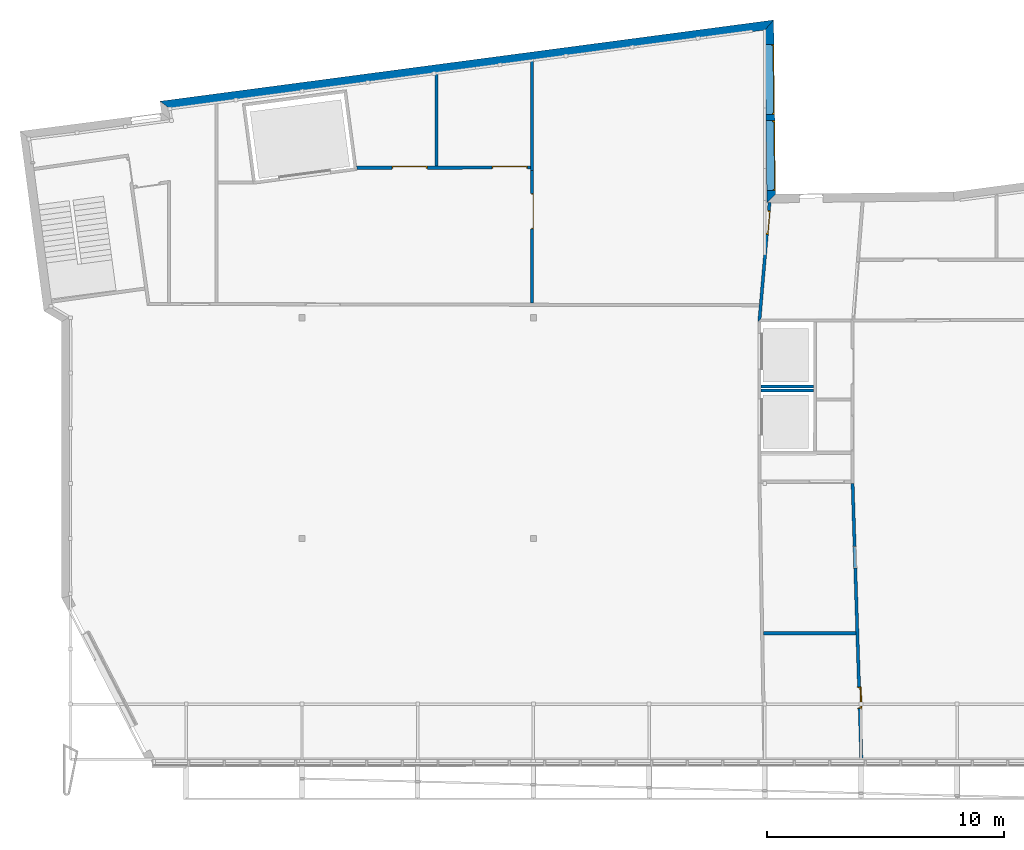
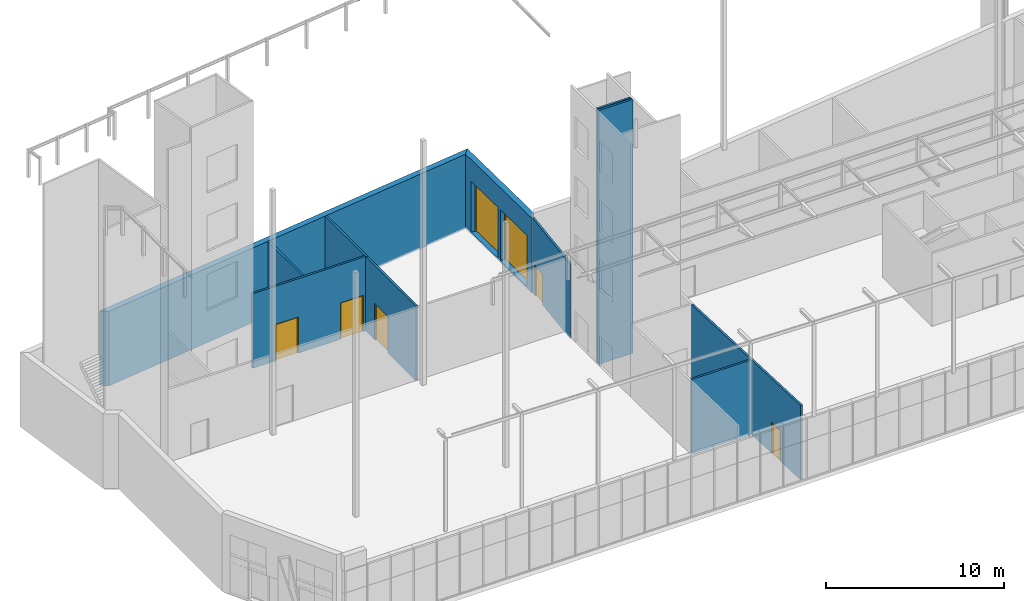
# One storey, part 25 of 40: 11 walls, 7 doors, 8 openings.
"""IFC2X3 building model written with IfcOpenShell, lengths in metres."""

from ifc_helpers import new_model, entity, si_unit, converted_unit, money_unit, direction, frame, origin_with_axes, origin_2d_with_axis, place, context, subcontext, project, spatial, polyline, rectangle, outline, extrude, faceted_brep, source, transform, mapped, material, material_list, layer, layer_set, layer_usage, type_object, element, fill, save


model = new_model("IFC2X3")

# Units and contexts
model_context = context("Model", 3, precision=1e-05, world=origin_with_axes(), true_north=direction((0.0, 1.0)))
body_context = subcontext(model_context, "Body", "Model", "MODEL_VIEW")
ifc_project = project(units=[si_unit("LENGTHUNIT", "METRE"), si_unit("AREAUNIT", "SQUARE_METRE"), si_unit("VOLUMEUNIT", "CUBIC_METRE"), converted_unit("PLANEANGLEUNIT", "DEGREE", entity("IfcPlaneAngleMeasure", 0.0174532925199), si_unit("PLANEANGLEUNIT", "RADIAN"), dimensions=[0, 0, 0, 0, 0, 0, 0]), si_unit("SOLIDANGLEUNIT", "STERADIAN"), money_unit("EUR"), converted_unit("TIMEUNIT", "Year", entity("IfcTimeMeasure", 31556926.0), si_unit("TIMEUNIT", "SECOND"), dimensions=[0, 0, 0, 0, 0, 0, 0]), si_unit("MASSUNIT", "GRAM"), si_unit("THERMODYNAMICTEMPERATUREUNIT", "DEGREE_CELSIUS"), si_unit("LUMINOUSINTENSITYUNIT", "LUMEN")], contexts=[model_context])

# Site, building, storey
site_placement = place(None, origin_with_axes())
site = spatial("IfcSite", under=ifc_project, at=site_placement, Name="Undefined", CompositionType="ELEMENT")
building_placement = place(site_placement, origin_with_axes())
building = spatial("IfcBuilding", under=site, at=building_placement, Name="Undefined", CompositionType="ELEMENT")
storey_placement = place(building_placement, origin_with_axes())
storey = spatial("IfcBuildingStorey", under=building, at=storey_placement, Name="Rez de chauss\x8ee", CompositionType="ELEMENT", Elevation=0.0)

# Walls
ifc_material_1 = material(Name="Finition int - Enduit pl\x89tre")
ifc_layer_1 = layer(ifc_material_1, 0.015, ventilated="UNKNOWN")
ifc_material_2 = material(Name="Struct. - Parpaing b\x8eton")
ifc_layer_2 = layer(ifc_material_2, 0.1, ventilated="UNKNOWN")
ifc_layer_3 = layer(ifc_material_1, 0.015, ventilated="UNKNOWN")
ifc_layer_set_1 = layer_set([ifc_layer_1, ifc_layer_2, ifc_layer_3], Name="0.0-Cloison: parpaing + pl\x89tre 2 faces copie")
ifc_layer_usage_1 = layer_usage(ifc_layer_set_1, "AXIS2", "NEGATIVE", 0.0)
wall_type_1 = type_object("IfcWallType", Name="0.0-Cloison: parpaing + pl\x89tre 2 faces copie 130", PredefinedType="NOTDEFINED")
wall_1_placement = place(storey_placement, frame((33.2159764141, 5.24494530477, 0.0), z_axis=(0.0, 0.0, 1.0), x_axis=(-1.0, 0.0, 0.0)))
element("IfcWallStandardCase", 1, at=wall_1_placement, inside=storey, type_object=wall_type_1, material=ifc_layer_usage_1, Name="Wall_Int", context=body_context, shape_type="SweptSolid", body=[
    extrude(outline(polyline([(0.134182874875, -0.13), (4.01345042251, -0.13), (4.01109209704, 0.0), (0.130065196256, 0.0), (0.134182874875, -0.13)])), origin_with_axes(), (0.0, 0.0, 1.0), 5.12),
])
ifc_layer_usage_2 = layer_usage(ifc_layer_set_1, "AXIS2", "POSITIVE", 0.0)
wall_2_placement = place(storey_placement, frame((15.4852438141, 24.9878402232, 0.0), z_axis=(0.0, 0.0, 1.0), x_axis=(0.0, 1.0, 0.0)))
element("IfcWallStandardCase", 2, at=wall_2_placement, inside=storey, type_object=wall_type_1, material=ifc_layer_usage_2, Name="Wall_Int_06", context=body_context, shape_type="SweptSolid", body=[
    extrude(outline(polyline([(0.0, 0.0), (3.92292730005, 0.0), (3.92292730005, 0.13), (-6.96748501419e-05, 0.13), (0.0, 0.0)])), origin_with_axes(), (0.0, 0.0, 1.0), 5.12),
])

# Wall, openings, doors
ifc_layer_usage_3 = layer_usage(ifc_layer_set_1, "AXIS2", "NEGATIVE", 0.0)
wall_3_placement = place(storey_placement, frame((12.0556633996, 24.986002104, 0.0), z_axis=(0.0, 0.0, 1.0), x_axis=(0.999999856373, 0.000535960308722, 0.0)))
wall_3 = element("IfcWallStandardCase", 3, at=wall_3_placement, inside=storey, type_object=wall_type_1, material=ifc_layer_usage_3, Name="Wall_Int_05", context=body_context, shape_type="SweptSolid", body=[
    extrude(outline(polyline([(0.0172747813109, -0.13), (7.32926797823, -0.13), (7.45933767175, 0.0), (0.0, 0.0), (0.0172747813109, -0.13)])), origin_with_axes(), (0.0, 0.0, 1.0), 5.12),
])
opening_1_placement = place(wall_3_placement, frame((2.2284820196, 0.0, 0.0), z_axis=(0.0, 0.0, 1.0), x_axis=(1.0, 0.0, 0.0)))
opening_1 = element("IfcOpeningElement", 4, at=opening_1_placement, cuts=wall_3, Name="DOOR", context=body_context, shape_type="SweptSolid", body=[
    extrude(rectangle(XDim=1.5, YDim=2.5, at=origin_2d_with_axis()), frame((0.0, 0.13, 1.25), z_axis=(0.0, -1.0, 0.0), x_axis=(1.0, 0.0, 0.0)), (0.0, 0.0, 1.0), 0.13),
    extrude(rectangle(XDim=1.5, YDim=2.5, at=origin_2d_with_axis()), frame((0.0, -0.13, 1.25), z_axis=(0.0, 1.0, 0.0), x_axis=(1.0, 0.0, 0.0)), (0.0, 0.0, 1.0), 0.13),
])
opening_2_placement = place(wall_3_placement, frame((6.44499060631, 0.0, 0.0), z_axis=(0.0, 0.0, 1.0), x_axis=(1.0, 0.0, 0.0)))
opening_2 = element("IfcOpeningElement", 5, at=opening_2_placement, cuts=wall_3, Name="DOOR", context=body_context, shape_type="SweptSolid", body=[
    extrude(rectangle(XDim=1.5, YDim=2.5, at=origin_2d_with_axis()), frame((0.0, 0.13, 1.25), z_axis=(0.0, -1.0, 0.0), x_axis=(1.0, 0.0, 0.0)), (0.0, 0.0, 1.0), 0.13),
    extrude(rectangle(XDim=1.5, YDim=2.5, at=origin_2d_with_axis()), frame((0.0, -0.13, 1.25), z_axis=(0.0, 1.0, 0.0), x_axis=(1.0, 0.0, 0.0)), (0.0, 0.0, 1.0), 0.13),
])
ifc_material_3 = material(Name="Background Fill-International")
ifc_material_4 = material(Name="Air Space")
ifc_material_list_1 = material_list([ifc_material_3, ifc_material_4])
door_style_1 = type_object("IfcDoorStyle", Name="IFC Porte double - Double battant", ConstructionType="ALUMINIUM", OperationType="DOUBLE_DOOR_DOUBLE_SWING", ParameterTakesPrecedence=True, Sizeable=False)
shared_shape_1 = source(origin_with_axes(), body_context, "Body", "Brep", [
    faceted_brep([(0.75, 0.0, 0.0), (0.75, -0.1, 0.0), (0.7, -0.1, 0.0), (0.7, 0.0, 0.0), (0.75, 0.0, 2.5), (0.75, -0.1, 2.5), (-0.75, -0.1, 2.5), (-0.75, -0.1, 0.0), (-0.7, -0.1, 0.0), (-0.7, -0.1, 2.45), (0.7, -0.1, 2.45), (0.7, 0.0, 2.45), (-0.7, 0.0, 2.45), (-0.7, 0.0, 0.0), (-0.75, 0.0, 0.0), (-0.75, 0.0, 2.5)], [[[0, 1, 2, 3]], [[4, 5, 1, 0]], [[1, 5, 6, 7, 8, 9, 10, 2]], [[3, 2, 10, 11]], [[0, 3, 11, 12, 13, 14, 15, 4]], [[15, 6, 5, 4]], [[14, 7, 6, 15]], [[13, 8, 7, 14]], [[12, 9, 8, 13]], [[11, 10, 9, 12]]]),
    faceted_brep([(-0.7, 0.0, 0.0), (-0.7, 0.0, 2.45), (0.0, 0.0, 2.45), (0.0, 0.0, 0.0), (-0.7, -0.04, 0.0), (-0.7, -0.04, 2.45), (0.0, -0.04, 2.45), (0.0, -0.04, 0.0)], [[[0, 1, 2, 3]], [[0, 4, 5, 1]], [[1, 5, 6, 2]], [[2, 6, 7, 3]], [[3, 7, 4, 0]], [[7, 6, 5, 4]]]),
    faceted_brep([(0.0, 0.0, 0.0), (0.0, 0.0, 2.45), (0.7, 0.0, 2.45), (0.7, 0.0, 0.0), (0.0, -0.04, 0.0), (0.0, -0.04, 2.45), (0.7, -0.04, 2.45), (0.7, -0.04, 0.0)], [[[0, 1, 2, 3]], [[0, 4, 5, 1]], [[1, 5, 6, 2]], [[2, 6, 7, 3]], [[3, 7, 4, 0]], [[7, 6, 5, 4]]]),
])
door_1_placement = place(opening_1_placement, frame((-0.75, 0.0, 0.0), z_axis=(0.0, 0.0, 1.0), x_axis=(1.0, 0.0, 0.0)))
door_1 = element("IfcDoor", 6, at=door_1_placement, inside=storey, type_object=door_style_1, material=ifc_material_list_1, Name="DOOR", ObjectType="DOOR", OverallHeight=2.5, OverallWidth=1.5, context=body_context, shape_type="MappedRepresentation", body=[
    mapped(shared_shape_1, transform((0.75, 0.0, 0.0))),
])
fill(opening_1, door_1)
door_2_placement = place(opening_2_placement, frame((-0.75, 0.0, 0.0), z_axis=(0.0, 0.0, 1.0), x_axis=(1.0, 0.0, 0.0)))
door_2 = element("IfcDoor", 7, at=door_2_placement, inside=storey, type_object=door_style_1, material=ifc_material_list_1, Name="DOOR", ObjectType="DOOR", OverallHeight=2.5, OverallWidth=1.5, context=body_context, shape_type="MappedRepresentation", body=[
    mapped(shared_shape_1, transform((0.75, 0.0, 0.0))),
])
fill(opening_2, door_2)

# Wall, openings, door
ifc_layer_usage_4 = layer_usage(ifc_layer_set_1, "AXIS2", "NEGATIVE", 0.0)
wall_4_placement = place(storey_placement, frame((33.0137357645, 11.6299225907, 0.0), z_axis=(0.0, 0.0, 1.0), x_axis=(0.0316585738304, -0.999498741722, 0.0)))
wall_4 = element("IfcWallStandardCase", 8, at=wall_4_placement, inside=storey, type_object=wall_type_1, material=ifc_layer_usage_4, Name="Wall_Int_06", context=body_context, shape_type="SweptSolid", body=[
    extrude(outline(polyline([(-0.00205832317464, -0.13), (11.6352806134, -0.13), (11.6352806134, 0.0), (0.0, 0.0), (-0.00205832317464, -0.13)])), origin_with_axes(), (0.0, 0.0, 1.0), 5.12),
])
opening_3_placement = place(wall_4_placement, frame((3.11682407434, 0.0, 0.12), z_axis=(0.0, 0.0, 1.0), x_axis=(1.0, 0.0, 0.0)))
element("IfcOpeningElement", 9, at=opening_3_placement, cuts=wall_4, Name="DOOR_1000", context=body_context, shape_type="SweptSolid", body=[
    extrude(rectangle(XDim=0.9, YDim=2.1, at=origin_2d_with_axis()), frame((0.0, -0.13, 1.05), z_axis=(0.0, 1.0, 0.0), x_axis=(1.0, 0.0, 0.0)), (0.0, 0.0, 1.0), 0.39),
    extrude(rectangle(XDim=0.974, YDim=2.137, at=origin_2d_with_axis()), frame((0.0, -0.26, 1.0685), z_axis=(0.0, 1.0, 0.0), x_axis=(1.0, 0.0, 0.0)), (0.0, 0.0, 1.0), 0.13),
    extrude(rectangle(XDim=0.974, YDim=2.137, at=origin_2d_with_axis()), frame((0.0, 0.13, 1.0685), z_axis=(0.0, -1.0, 0.0), x_axis=(1.0, 0.0, 0.0)), (0.0, 0.0, 1.0), 0.13),
])
opening_4_placement = place(wall_4_placement, frame((9.03947018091, 0.0, 0.0), z_axis=(0.0, 0.0, 1.0), x_axis=(1.0, 0.0, 0.0)))
opening_4 = element("IfcOpeningElement", 10, at=opening_4_placement, cuts=wall_4, Name="DOOR_1000", context=body_context, shape_type="SweptSolid", body=[
    extrude(rectangle(XDim=0.9, YDim=2.1, at=origin_2d_with_axis()), frame((0.0, -0.13, 1.05), z_axis=(0.0, -1.0, 0.0), x_axis=(-1.0, 0.0, 0.0)), (0.0, 0.0, -1.0), 0.39),
    extrude(rectangle(XDim=0.9, YDim=0.105069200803, at=origin_2d_with_axis()), frame((0.0, 0.13, -0.0525346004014), z_axis=(0.0, 1.0, 0.0), x_axis=(-1.0, 0.0, 0.0)), (0.0, 0.0, -1.0), 0.167364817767),
    extrude(rectangle(XDim=0.974, YDim=2.137, at=origin_2d_with_axis()), frame((0.0, -0.26, 1.0685), z_axis=(0.0, -1.0, 0.0), x_axis=(-1.0, 0.0, 0.0)), (0.0, 0.0, -1.0), 0.13),
    extrude(rectangle(XDim=0.974, YDim=2.2420692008, at=origin_2d_with_axis()), frame((0.0, 0.13, 1.0159653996), z_axis=(0.0, 1.0, 0.0), x_axis=(-1.0, 0.0, 0.0)), (0.0, 0.0, -1.0), 0.13),
])
ifc_material_5 = material(Name="Foreground Fill-International")
ifc_material_6 = material(Name="07 | Insulation Rigid")
ifc_material_list_2 = material_list([ifc_material_3, ifc_material_4, ifc_material_5, ifc_material_3, ifc_material_3, ifc_material_3, ifc_material_3, ifc_material_6, ifc_material_3, ifc_material_3, ifc_material_3, ifc_material_3, ifc_material_4, ifc_material_3, ifc_material_3, ifc_material_3])
door_style_2 = type_object("IfcDoorStyle", Name="Porte 18", ConstructionType="NOTDEFINED", OperationType="SINGLE_SWING_LEFT", ParameterTakesPrecedence=False, Sizeable=False)
shared_shape_2 = source(origin_with_axes(), body_context, "Body", "Brep", [
    faceted_brep([(0.45, -0.02, 0.0), (0.45, 0.0373648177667, -0.0101149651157), (-0.45, 0.0373648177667, -0.0101149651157), (-0.45, -0.02, 0.0), (0.45, -0.0373648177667, -0.0984807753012), (0.45, 0.02, -0.108595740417), (-0.45, 0.02, -0.108595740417), (-0.45, -0.0373648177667, -0.0984807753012)], [[[0, 1, 2, 3]], [[0, 4, 5, 1]], [[1, 5, 6, 2]], [[3, 2, 6, 7]], [[4, 0, 3, 7]], [[5, 4, 7, 6]]]),
    faceted_brep([(0.45, -0.115, 0.0), (0.45, -0.13, 0.0), (0.425, -0.13, 0.0), (0.425, -0.115, 0.0), (0.45, -0.115, 2.1), (0.45, -0.13, 2.1), (0.425, -0.13, 2.075), (0.425, -0.115, 2.075)], [[[0, 1, 2, 3]], [[4, 5, 1, 0]], [[1, 5, 6, 2]], [[3, 2, 6, 7]], [[0, 3, 7, 4]], [[7, 6, 5, 4]]]),
    faceted_brep([(-0.45, -0.115, 2.1), (-0.45, -0.13, 2.1), (-0.425, -0.13, 2.075), (-0.425, -0.115, 2.075), (-0.45, -0.115, 0.0), (-0.45, -0.13, 0.0), (-0.425, -0.13, 0.0), (-0.425, -0.115, 0.0)], [[[0, 1, 2, 3]], [[4, 5, 1, 0]], [[1, 5, 6, 2]], [[3, 2, 6, 7]], [[0, 3, 7, 4]], [[7, 6, 5, 4]]]),
    faceted_brep([(0.425, -0.115, 2.075), (0.425, -0.13, 2.075), (-0.425, -0.13, 2.075), (-0.425, -0.115, 2.075), (0.45, -0.115, 2.1), (0.45, -0.13, 2.1), (-0.45, -0.13, 2.1), (-0.45, -0.115, 2.1)], [[[0, 1, 2, 3]], [[4, 5, 1, 0]], [[1, 5, 6, 2]], [[3, 2, 6, 7]], [[0, 3, 7, 4]], [[7, 6, 5, 4]]]),
    faceted_brep([(0.487, -0.149, 0.0), (0.437, -0.149, 0.0), (0.437, -0.13, 0.0), (0.487, -0.13, 0.0), (0.487, -0.149, 2.137), (0.437, -0.149, 2.087), (0.437, -0.13, 2.087), (0.487, -0.13, 2.137)], [[[0, 1, 2, 3]], [[0, 4, 5, 1]], [[1, 5, 6, 2]], [[3, 2, 6, 7]], [[4, 0, 3, 7]], [[5, 4, 7, 6]]]),
    faceted_brep([(-0.487, -0.149, 2.137), (-0.437, -0.149, 2.087), (-0.437, -0.13, 2.087), (-0.487, -0.13, 2.137), (-0.487, -0.149, 0.0), (-0.437, -0.149, 0.0), (-0.437, -0.13, 0.0), (-0.487, -0.13, 0.0)], [[[0, 1, 2, 3]], [[0, 4, 5, 1]], [[1, 5, 6, 2]], [[3, 2, 6, 7]], [[4, 0, 3, 7]], [[5, 4, 7, 6]]]),
    faceted_brep([(0.487, -0.149, 2.137), (0.437, -0.149, 2.087), (0.437, -0.13, 2.087), (0.487, -0.13, 2.137), (-0.487, -0.149, 2.137), (-0.437, -0.149, 2.087), (-0.437, -0.13, 2.087), (-0.487, -0.13, 2.137)], [[[0, 1, 2, 3]], [[0, 4, 5, 1]], [[1, 5, 6, 2]], [[3, 2, 6, 7]], [[4, 0, 3, 7]], [[5, 4, 7, 6]]]),
    faceted_brep([(0.45, 0.0, -0.00352653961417), (0.487, 0.0, -0.00352653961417), (0.487, 0.0, 2.137), (0.437, 0.0, 2.087), (0.437, 0.0, -0.00352653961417), (0.45, 0.019, -0.00687675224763), (0.487, 0.019, -0.00687675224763), (0.487, 0.019, 2.137), (0.437, 0.019, 2.087), (0.437, 0.019, -0.00687675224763)], [[[0, 1, 2, 3, 4]], [[0, 5, 6, 1]], [[2, 1, 6, 7]], [[3, 2, 7, 8]], [[4, 3, 8, 9]], [[9, 5, 0, 4]], [[5, 9, 8, 7, 6]]]),
    faceted_brep([(-0.45, 0.0, -0.00352653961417), (-0.437, 0.0, -0.00352653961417), (-0.437, 0.0, 2.087), (-0.487, 0.0, 2.137), (-0.487, 0.0, -0.00352653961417), (-0.45, 0.019, -0.00687675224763), (-0.437, 0.019, -0.00687675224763), (-0.437, 0.019, 2.087), (-0.487, 0.019, 2.137), (-0.487, 0.019, -0.00687675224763)], [[[0, 1, 2, 3, 4]], [[0, 5, 6, 1]], [[6, 7, 2, 1]], [[3, 2, 7, 8]], [[9, 4, 3, 8]], [[0, 4, 9, 5]], [[5, 9, 8, 7, 6]]]),
    faceted_brep([(0.487, 0.019, 2.137), (0.487, 0.0, 2.137), (0.437, 0.0, 2.087), (0.437, 0.019, 2.087), (-0.487, 0.019, 2.137), (-0.487, 0.0, 2.137), (-0.437, 0.0, 2.087), (-0.437, 0.019, 2.087)], [[[0, 1, 2, 3]], [[4, 5, 1, 0]], [[1, 5, 6, 2]], [[3, 2, 6, 7]], [[0, 3, 7, 4]], [[7, 6, 5, 4]]]),
    faceted_brep([(0.41, -0.04, 0.0), (0.41, -0.115, 0.0), (0.41, -0.115, 2.06), (0.41, -0.04, 2.06), (0.422, -0.04, 0.0), (0.422, 0.0, 0.0), (0.45, 0.0, 0.0), (0.45, -0.115, 0.0), (0.45, -0.115, 2.06), (0.422, -0.04, 2.06), (0.45, 0.0, 2.06), (0.422, 0.0, 2.06)], [[[0, 1, 2, 3]], [[4, 5, 6, 7, 1, 0]], [[8, 2, 1, 7]], [[9, 3, 2, 8, 10, 11]], [[9, 4, 0, 3]], [[11, 5, 4, 9]], [[11, 10, 6, 5]], [[8, 7, 6, 10]]]),
    faceted_brep([(-0.422, -0.04, 2.06), (-0.422, 0.0, 2.06), (-0.45, 0.0, 2.06), (-0.45, -0.115, 2.06), (-0.41, -0.115, 2.06), (-0.41, -0.04, 2.06), (-0.422, -0.04, 0.0), (-0.422, 0.0, 0.0), (-0.45, 0.0, 0.0), (-0.45, -0.115, 0.0), (-0.41, -0.115, 0.0), (-0.41, -0.04, 0.0)], [[[0, 1, 2, 3, 4, 5]], [[0, 6, 7, 1]], [[7, 8, 2, 1]], [[9, 3, 2, 8]], [[10, 4, 3, 9]], [[5, 4, 10, 11]], [[5, 11, 6, 0]], [[6, 11, 10, 9, 8, 7]]]),
    faceted_brep([(0.422, 0.0, 2.072), (-0.422, 0.0, 2.072), (-0.422, 0.0, 2.06), (-0.45, 0.0, 2.06), (-0.45, 0.0, 2.1), (0.45, 0.0, 2.1), (0.45, 0.0, 2.06), (0.422, 0.0, 2.06), (0.422, -0.04, 2.072), (-0.422, -0.04, 2.072), (-0.422, -0.04, 2.06), (-0.41, -0.04, 2.06), (-0.41, -0.115, 2.06), (-0.45, -0.115, 2.06), (-0.45, -0.115, 2.1), (0.45, -0.115, 2.1), (0.45, -0.115, 2.06), (0.422, -0.04, 2.06), (0.41, -0.115, 2.06), (0.41, -0.04, 2.06)], [[[0, 1, 2, 3, 4, 5, 6, 7]], [[0, 8, 9, 1]], [[1, 9, 10, 2]], [[10, 11, 12, 13, 3, 2]], [[13, 14, 4, 3]], [[14, 15, 5, 4]], [[15, 16, 6, 5]], [[17, 7, 6, 16, 18, 19]], [[7, 17, 8, 0]], [[10, 9, 8, 17, 19, 11]], [[19, 18, 12, 11]], [[14, 13, 12, 18, 16, 15]]]),
    faceted_brep([(-0.422, 0.0, 0.0), (0.422, 0.0, 0.0), (0.422, -0.04, 0.0), (-0.422, -0.04, 0.0), (-0.422, 0.0, 2.072), (0.422, 0.0, 2.072), (0.422, -0.04, 2.072), (-0.422, -0.04, 2.072)], [[[0, 1, 2, 3]], [[0, 4, 5, 1]], [[1, 5, 6, 2]], [[3, 2, 6, 7]], [[4, 0, 3, 7]], [[5, 4, 7, 6]]]),
])
door_3_placement = place(opening_4_placement, frame((-0.45, 0.0, 0.0), z_axis=(0.0, 0.0, 1.0), x_axis=(1.0, 0.0, 0.0)))
door_3 = element("IfcDoor", 11, at=door_3_placement, inside=storey, type_object=door_style_2, material=ifc_material_list_2, Name="DOOR_1000", ObjectType="DOOR", OverallHeight=2.1, OverallWidth=0.9, context=body_context, shape_type="MappedRepresentation", body=[
    mapped(shared_shape_2, transform((0.45, 0.0, 0.0))),
])
fill(opening_4, door_3)

# Walls
ifc_layer_usage_5 = layer_usage(ifc_layer_set_1, "AXIS2", "POSITIVE", 0.0)
wall_5_placement = place(storey_placement, frame((19.5152932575, 24.8100001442, 0.0), z_axis=(0.0, 0.0, 1.0), x_axis=(-0.00325840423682, 0.999994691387, 0.0)))
element("IfcWallStandardCase", 12, at=wall_5_placement, inside=storey, type_object=wall_type_1, material=ifc_layer_usage_5, Name="Wall_Int_05", context=body_context, shape_type="SweptSolid", body=[
    extrude(outline(polyline([(0.0, 0.0), (4.62291098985, 0.0), (4.60612852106, 0.13), (0.0, 0.13), (0.0, 0.0)])), origin_with_axes(), (0.0, 0.0, 1.0), 5.12),
])
ifc_layer_usage_6 = layer_usage(ifc_layer_set_1, "AXIS2", "NEGATIVE", 0.0)
wall_6_placement = place(storey_placement, frame((28.9587660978, 15.7650686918, 0.0), z_axis=(0.0, 0.0, 1.0), x_axis=(1.0, 0.0, 0.0)))
element("IfcWallStandardCase", 13, at=wall_6_placement, inside=storey, type_object=wall_type_1, material=ifc_layer_usage_6, Name="VOILE_15CM", ObjectType="6700*150", context=body_context, shape_type="SweptSolid", body=[
    extrude(outline(polyline([(0.13, -0.13), (2.33712241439, -0.13), (2.33747130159, 0.0), (0.13, 0.0), (0.13, -0.13)])), origin_with_axes(), (0.0, 0.0, 1.0), 17.4249999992),
])
ifc_layer_usage_7 = layer_usage(ifc_layer_set_1, "AXIS2", "POSITIVE", 0.0)
wall_7_placement = place(storey_placement, frame((28.9587660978, 15.4650686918, 0.0), z_axis=(0.0, 0.0, 1.0), x_axis=(1.0, 0.0, 0.0)))
element("IfcWallStandardCase", 14, at=wall_7_placement, inside=storey, type_object=wall_type_1, material=ifc_layer_usage_7, Name="VOILE_15CM", ObjectType="6700*150", context=body_context, shape_type="SweptSolid", body=[
    extrude(outline(polyline([(0.13, 0.0), (2.33666617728, 0.0), (2.33701506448, 0.13), (0.13, 0.13), (0.13, 0.0)])), origin_with_axes(), (0.0, 0.0, 1.0), 17.4249999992),
])

# Wall, opening, door
ifc_layer_usage_8 = layer_usage(ifc_layer_set_1, "AXIS2", "NEGATIVE", 0.0)
wall_8_placement = place(storey_placement, frame((19.515, 24.9900000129, 0.0), z_axis=(0.0, 0.0, 1.0), x_axis=(0.0, -1.0, 0.0)))
wall_8 = element("IfcWallStandardCase", 15, at=wall_8_placement, inside=storey, type_object=wall_type_1, material=ifc_layer_usage_8, Name="MACONNERIE_15CM", ObjectType="5000*150", context=body_context, shape_type="SweptSolid", body=[
    extrude(outline(polyline([(0.130069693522, -0.13), (5.7752313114, -0.13), (5.77551058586, 0.0), (0.0, 0.0), (0.130069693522, -0.13)])), origin_with_axes(), (0.0, 0.0, 1.0), 5.12),
])
opening_5_placement = place(wall_8_placement, frame((1.8984886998, 0.0, 0.0), z_axis=(0.0, 0.0, 1.0), x_axis=(1.0, 0.0, 0.0)))
opening_5 = element("IfcOpeningElement", 16, at=opening_5_placement, cuts=wall_8, Name="DOOR", context=body_context, shape_type="SweptSolid", body=[
    extrude(rectangle(XDim=1.5, YDim=2.5, at=origin_2d_with_axis()), frame((0.0, 0.13, 1.25), z_axis=(0.0, -1.0, 0.0), x_axis=(1.0, 0.0, 0.0)), (0.0, 0.0, 1.0), 0.13),
    extrude(rectangle(XDim=1.5, YDim=2.5, at=origin_2d_with_axis()), frame((0.0, -0.13, 1.25), z_axis=(0.0, 1.0, 0.0), x_axis=(1.0, 0.0, 0.0)), (0.0, 0.0, 1.0), 0.13),
])
door_4_placement = place(opening_5_placement, frame((-0.75, 0.0, 0.0), z_axis=(0.0, 0.0, 1.0), x_axis=(1.0, 0.0, 0.0)))
door_4 = element("IfcDoor", 17, at=door_4_placement, inside=storey, type_object=door_style_1, material=ifc_material_list_1, Name="DOOR", ObjectType="DOOR", OverallHeight=2.5, OverallWidth=1.5, context=body_context, shape_type="MappedRepresentation", body=[
    mapped(shared_shape_1, transform((0.75, 0.0, 0.0))),
])
fill(opening_5, door_4)

ifc_layer_usage_9 = layer_usage(ifc_layer_set_1, "AXIS2", "NEGATIVE", 0.0)
wall_9_placement = place(storey_placement, frame((28.9587636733, 18.4900686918, 0.0), z_axis=(0.0, 0.0, 1.0), x_axis=(0.085471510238, 0.996340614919, 0.0)))
wall_9 = element("IfcWallStandardCase", 18, at=wall_9_placement, inside=storey, type_object=wall_type_1, material=ifc_layer_usage_9, Name="Wall_Int_06", context=body_context, shape_type="SweptSolid", body=[
    extrude(outline(polyline([(0.0763908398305, -0.13), (4.98652863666, -0.13), (4.98652863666, 0.0), (-0.0652387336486, 0.0), (0.0763908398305, -0.13)])), origin_with_axes(), (0.0, 0.0, 1.0), 5.12),
])
opening_6_placement = place(wall_9_placement, frame((4.14518010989, 0.0, 0.0), z_axis=(0.0, 0.0, 1.0), x_axis=(1.0, 0.0, 0.0)))
opening_6 = element("IfcOpeningElement", 19, at=opening_6_placement, cuts=wall_9, Name="DOOR_1000", context=body_context, shape_type="SweptSolid", body=[
    extrude(rectangle(XDim=1.0, YDim=2.1, at=origin_2d_with_axis()), frame((0.0, -0.26, 1.05), z_axis=(0.0, 1.0, 0.0), x_axis=(1.0, 0.0, 0.0)), (0.0, 0.0, 1.0), 0.13),
    extrude(rectangle(XDim=1.0, YDim=2.1, at=origin_2d_with_axis()), frame((0.0, 0.0, 1.05), z_axis=(0.0, -1.0, 0.0), x_axis=(1.0, 0.0, 0.0)), (0.0, 0.0, 1.0), 0.13),
])
door_style_3 = type_object("IfcDoorStyle", Name="IFC Porte - Simple battant", ConstructionType="NOTDEFINED", OperationType="SINGLE_SWING_RIGHT", ParameterTakesPrecedence=True, Sizeable=False)
shared_shape_3 = source(origin_with_axes(), body_context, "Body", "Brep", [
    faceted_brep([(-0.5, 0.0, 0.0), (-0.45, 0.0, 0.0), (-0.45, -0.1, 0.0), (-0.5, -0.1, 0.0), (-0.5, 0.0, 2.1), (0.5, 0.0, 2.1), (0.5, 0.0, 0.0), (0.45, 0.0, 0.0), (0.45, 0.0, 2.05), (-0.45, 0.0, 2.05), (-0.45, -0.1, 2.05), (0.45, -0.1, 2.05), (0.45, -0.1, 0.0), (0.5, -0.1, 0.0), (0.5, -0.1, 2.1), (-0.5, -0.1, 2.1)], [[[0, 1, 2, 3]], [[0, 4, 5, 6, 7, 8, 9, 1]], [[1, 9, 10, 2]], [[3, 2, 10, 11, 12, 13, 14, 15]], [[4, 0, 3, 15]], [[5, 4, 15, 14]], [[6, 5, 14, 13]], [[7, 6, 13, 12]], [[8, 7, 12, 11]], [[9, 8, 11, 10]]]),
    faceted_brep([(0.45, 0.0, 0.0), (0.45, 0.0, 2.05), (0.45, -0.04, 2.05), (0.45, -0.04, 0.0), (-0.45, 0.0, 0.0), (-0.45, 0.0, 2.05), (-0.45, -0.04, 2.05), (-0.45, -0.04, 0.0)], [[[0, 1, 2, 3]], [[0, 4, 5, 1]], [[1, 5, 6, 2]], [[3, 2, 6, 7]], [[4, 0, 3, 7]], [[5, 4, 7, 6]]]),
])
door_5_placement = place(opening_6_placement, frame((0.5, 0.0, 0.0), z_axis=(0.0, 0.0, 1.0), x_axis=(-1.0, 0.0, 0.0)))
door_5 = element("IfcDoor", 20, at=door_5_placement, inside=storey, type_object=door_style_3, material=ifc_material_list_1, Name="DOOR_1000", ObjectType="DOOR", OverallHeight=2.1, OverallWidth=1.0, context=body_context, shape_type="MappedRepresentation", body=[
    mapped(shared_shape_3, transform((0.5, 0.13, 0.0))),
])
fill(opening_6, door_5)

# Wall, openings, doors
ifc_material_7 = material(Name="Finition ext - Cr\x8epis")
ifc_layer_4 = layer(ifc_material_7, 0.015, ventilated="UNKNOWN")
ifc_material_8 = material(Name="Isolation - Fibres de bois")
ifc_layer_5 = layer(ifc_material_8, 0.16, ventilated="UNKNOWN")
ifc_material_9 = material(Name="Struct. - B.A. banch\x8e")
ifc_layer_6 = layer(ifc_material_9, 0.18, ventilated="UNKNOWN")
ifc_layer_7 = layer(ifc_material_1, 0.015, ventilated="UNKNOWN")
ifc_layer_set_2 = layer_set([ifc_layer_4, ifc_layer_5, ifc_layer_6, ifc_layer_7], Name="1.2-Mur ext: rev\x8et ext + isol ext + ma\x8donnerie + enduit")
ifc_layer_usage_10 = layer_usage(ifc_layer_set_2, "AXIS2", "POSITIVE", 0.0)
wall_type_2 = type_object("IfcWallType", Name="1.2-Mur ext: rev\x8et ext + isol ext + ma\x8donnerie + enduit 370", PredefinedType="NOTDEFINED")
wall_10_placement = place(storey_placement, frame((29.7067026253, 23.8107726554, 0.0), z_axis=(0.0, 0.0, 1.0), x_axis=(-0.0117836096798, 0.999930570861, 0.0)))
wall_10 = element("IfcWallStandardCase", 21, at=wall_10_placement, inside=storey, type_object=wall_type_2, material=ifc_layer_usage_10, Name="ExtWall_01", ObjectType="WALL", context=body_context, shape_type="SweptSolid", body=[
    extrude(outline(polyline([(-1.0239865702e-06, 0.0), (7.33584616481, 0.0), (6.91861041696, 0.37), (-0.369878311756, 0.37), (-1.0239865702e-06, 0.0)])), origin_with_axes(), (0.0, 0.0, 1.0), 5.12),
])
opening_7_placement = place(wall_10_placement, frame((4.83793606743, 0.0, 0.12), z_axis=(0.0, 0.0, 1.0), x_axis=(1.0, 0.0, 0.0)))
opening_7 = element("IfcOpeningElement", 22, at=opening_7_placement, cuts=wall_10, Name="DOOR", context=body_context, shape_type="SweptSolid", body=[
    extrude(rectangle(XDim=2.94933516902, YDim=3.5, at=origin_2d_with_axis()), frame((0.0, -0.37, 1.75), z_axis=(0.0, 1.0, 0.0), x_axis=(1.0, 0.0, 0.0)), (0.0, 0.0, 1.0), 0.37),
    extrude(rectangle(XDim=2.94933516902, YDim=3.5, at=origin_2d_with_axis()), frame((0.0, 0.37, 1.75), z_axis=(0.0, -1.0, 0.0), x_axis=(1.0, 0.0, 0.0)), (0.0, 0.0, 1.0), 0.37),
])
opening_8_placement = place(wall_10_placement, frame((1.62410362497, 0.0, 0.12), z_axis=(0.0, 0.0, 1.0), x_axis=(1.0, 0.0, 0.0)))
opening_8 = element("IfcOpeningElement", 23, at=opening_8_placement, cuts=wall_10, Name="DOOR", context=body_context, shape_type="SweptSolid", body=[
    extrude(rectangle(XDim=2.94933516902, YDim=3.5, at=origin_2d_with_axis()), frame((0.0, -0.37, 1.75), z_axis=(0.0, 1.0, 0.0), x_axis=(1.0, 0.0, 0.0)), (0.0, 0.0, 1.0), 0.37),
    extrude(rectangle(XDim=2.94933516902, YDim=3.5, at=origin_2d_with_axis()), frame((0.0, 0.37, 1.75), z_axis=(0.0, -1.0, 0.0), x_axis=(1.0, 0.0, 0.0)), (0.0, 0.0, 1.0), 0.37),
])
door_style_4 = type_object("IfcDoorStyle", Name="IFC Porte - Enroul\x8ee", ConstructionType="ALUMINIUM", OperationType="ROLLINGUP", ParameterTakesPrecedence=True, Sizeable=False)
shared_shape_4 = source(origin_with_axes(), body_context, "Body", "Brep", [
    faceted_brep([(-1.47466758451, 0.0, 0.0), (-1.42466758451, 0.0, 0.0), (-1.42466758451, -0.1, 0.0), (-1.47466758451, -0.1, 0.0), (-1.47466758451, 0.0, 3.5), (1.47466758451, 0.0, 3.5), (1.47466758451, 0.0, 0.0), (1.42466758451, 0.0, 0.0), (1.42466758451, 0.0, 3.45), (-1.42466758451, 0.0, 3.45), (-1.42466758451, -0.1, 3.45), (1.42466758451, -0.1, 3.45), (1.42466758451, -0.1, 0.0), (1.47466758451, -0.1, 0.0), (1.47466758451, -0.1, 3.5), (-1.47466758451, -0.1, 3.5)], [[[0, 1, 2, 3]], [[0, 4, 5, 6, 7, 8, 9, 1]], [[1, 9, 10, 2]], [[3, 2, 10, 11, 12, 13, 14, 15]], [[4, 0, 3, 15]], [[5, 4, 15, 14]], [[6, 5, 14, 13]], [[7, 6, 13, 12]], [[8, 7, 12, 11]], [[9, 8, 11, 10]]]),
    faceted_brep([(1.42466758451, 0.0, 0.0), (1.42466758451, 0.0, 3.45), (1.42466758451, -0.04, 3.45), (1.42466758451, -0.04, 0.0), (-1.42466758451, 0.0, 0.0), (-1.42466758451, 0.0, 3.45), (-1.42466758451, -0.04, 3.45), (-1.42466758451, -0.04, 0.0)], [[[0, 1, 2, 3]], [[0, 4, 5, 1]], [[1, 5, 6, 2]], [[3, 2, 6, 7]], [[4, 0, 3, 7]], [[5, 4, 7, 6]]]),
])
door_6_placement = place(opening_7_placement, frame((1.47466758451, 0.0, 0.0), z_axis=(0.0, 0.0, 1.0), x_axis=(-1.0, 0.0, 0.0)))
door_6 = element("IfcDoor", 24, at=door_6_placement, inside=storey, type_object=door_style_4, material=ifc_material_list_1, Name="DOOR", ObjectType="DOOR", OverallHeight=3.5, OverallWidth=2.94934, context=body_context, shape_type="MappedRepresentation", body=[
    mapped(shared_shape_4, transform((1.47466758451, 0.0, 0.0))),
])
fill(opening_7, door_6)
door_7_placement = place(opening_8_placement, frame((1.47466758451, 0.0, 0.0), z_axis=(0.0, 0.0, 1.0), x_axis=(-1.0, 0.0, 0.0)))
door_7 = element("IfcDoor", 25, at=door_7_placement, inside=storey, type_object=door_style_4, material=ifc_material_list_1, Name="DOOR", ObjectType="DOOR", OverallHeight=3.5, OverallWidth=2.94934, context=body_context, shape_type="MappedRepresentation", body=[
    mapped(shared_shape_4, transform((1.47466758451, 0.0, 0.0))),
])
fill(opening_8, door_7)

# Wall
ifc_layer_usage_11 = layer_usage(ifc_layer_set_2, "AXIS2", "POSITIVE", 0.0)
wall_11_placement = place(storey_placement, frame((29.6202598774, 31.1461094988, 0.0), z_axis=(0.0, 0.0, 1.0), x_axis=(-0.991347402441, -0.131264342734, 0.0)))
element("IfcWallStandardCase", 26, at=wall_11_placement, inside=storey, type_object=wall_type_2, material=ifc_layer_usage_11, Name="WallEx02", ObjectType="WALL", context=body_context, shape_type="SweptSolid", body=[
    extrude(outline(polyline([(0.0, 0.0), (26.0743044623, 0.0), (25.7039336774, 0.37), (0.417235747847, 0.37), (0.0, 0.0)])), origin_with_axes(), (0.0, 0.0, 1.0), 5.12),
])

save(model, "model.ifc")
